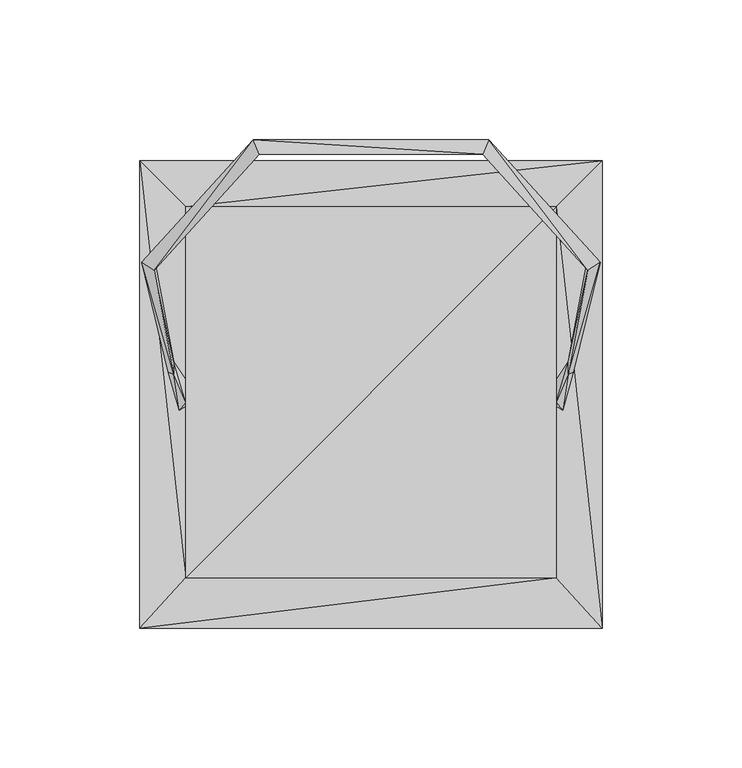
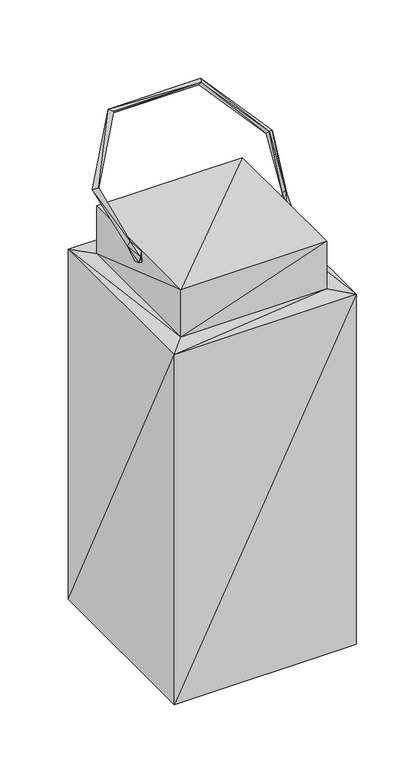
"""IFC4 building model written with IfcOpenShell, lengths in millimetres: geographic element geometry, Enscape AssetDefinition - Candle Lantern : Enscape AssetDefinition - Candle Lantern."""

from ifc_helpers import new_model, si_unit, origin, place, context, project, spatial, faceted_brep, source, transform, mapped, element, save


def geographic_element_3b733e86(model_context):
    return source(origin(), model_context, "Body", "Brep", [
        faceted_brep([(64.8216084, 3.8875914, 371.8030453), (68.9874664, 10.3752213, 380.9646666), (67.1490133, 1.1275142, 369.4619238), (68.9874664, 5.8764238, 386.2684965), (76.1088133, 43.0835895, 417.8260267), (76.1088133, 47.5823842, 412.5221968), (70.9497482, 6.6146962, 382.3350668), (64.8216084, -4.2213425, 381.3635707), (67.1490133, -5.6866277, 371.9019294), (64.8216084, -5.6866277, 371.9019294), (67.1490133, -6.9814194, 379.0232837), (80.4580301, 45.9104143, 415.6642854), (40.6379588, 89.7451416, 452.8425038), (38.3957997, 89.0929252, 447.7292895), (-43.6867513, 89.7451416, 452.8425038), (38.3957997, 84.5941231, 453.0330896), (-41.4437838, 89.0929252, 447.7292895), (-41.4437838, 84.5941231, 453.0330896), (-79.1576058, 43.0835895, 417.8260267), (-83.5068226, 45.9104143, 415.6642854), (-79.1576058, 47.5823842, 412.5221968), (-72.0362514, 5.8764238, 386.2684965), (-72.0362514, 10.3752213, 380.9646666), (-73.9985406, 6.6146962, 382.3350668), (-70.1978058, 1.1275142, 369.4619238), (-67.8704008, 3.8875914, 371.8030453), (-67.8704008, -4.2213425, 381.3635707), (-70.1978058, -6.9814194, 379.0232837), (-70.1978058, -5.6866277, 371.9019294), (-67.8704008, -5.6866277, 371.9019294)], [[[0, 1, 2]], [[3, 4, 1]], [[1, 5, 6]], [[3, 1, 7]], [[2, 1, 6]], [[1, 4, 5]], [[7, 1, 0]], [[6, 8, 2]], [[8, 0, 2]], [[9, 0, 8]], [[0, 9, 7]], [[7, 9, 10]], [[10, 3, 7]], [[10, 9, 8]], [[6, 10, 8]], [[6, 11, 3]], [[6, 3, 10]], [[6, 5, 11]], [[3, 11, 4]], [[11, 12, 4]], [[5, 13, 11]], [[11, 13, 12]], [[12, 14, 15]], [[4, 12, 15]], [[13, 14, 12]], [[13, 16, 14]], [[5, 15, 13]], [[15, 16, 13]], [[4, 15, 5]], [[15, 17, 16]], [[15, 14, 17]], [[17, 14, 18]], [[14, 16, 19]], [[18, 14, 19]], [[16, 17, 20]], [[19, 16, 20]], [[20, 17, 18]], [[18, 19, 21]], [[20, 18, 22]], [[22, 18, 21]], [[19, 20, 23]], [[21, 19, 23]], [[23, 20, 22]], [[24, 22, 25]], [[25, 22, 26]], [[23, 22, 24]], [[26, 22, 21]], [[26, 21, 27]], [[21, 23, 27]], [[28, 27, 23]], [[24, 28, 23]], [[24, 25, 28]], [[26, 29, 25]], [[28, 25, 29]], [[27, 29, 26]], [[28, 29, 27]]]),
        faceted_brep([(81.243746, -85.0316212, 0.0), (-84.2917413, -85.0316212, 0.0), (81.243746, 82.1742341, 0.0), (-84.2917413, -85.0316212, 336.7358744), (81.243746, -85.0316212, 336.7358744), (-84.2917413, 82.1742341, 0.0), (81.243746, 82.1742341, 336.7358744), (-84.2917413, 82.1742341, 336.7358744), (64.8240224, -66.9415295, 336.7358744), (64.8240224, 65.754503, 336.7358744), (-67.8720102, -66.9415295, 336.7358744), (-67.8720102, 65.754503, 336.7358744), (64.8240224, 65.754503, 382.702589), (-67.8720102, 65.754503, 382.702589), (64.8240224, -66.9415295, 382.702589), (-67.8720102, -66.9415295, 382.702589)], [[[0, 1, 2]], [[3, 1, 4]], [[2, 1, 5]], [[4, 1, 0]], [[3, 5, 1]], [[6, 2, 7]], [[6, 0, 2]], [[7, 2, 5]], [[4, 0, 6]], [[8, 4, 9]], [[8, 3, 4]], [[9, 4, 6]], [[7, 5, 3]], [[10, 3, 8]], [[10, 7, 3]], [[11, 7, 10]], [[11, 6, 7]], [[9, 6, 11]], [[12, 9, 13]], [[12, 8, 9]], [[13, 9, 11]], [[14, 8, 12]], [[14, 10, 8]], [[15, 10, 14]], [[15, 11, 10]], [[13, 11, 15]], [[13, 15, 12]], [[12, 15, 14]]]),
    ])


if __name__ == "__main__":
    model = new_model("IFC4")
    model_context = context("Model", 3, world=origin())
    ifc_project = project(units=[si_unit("LENGTHUNIT", "METRE", prefix="MILLI")], contexts=[model_context])
    site = spatial("IfcSite", under=ifc_project)
    building = spatial("IfcBuilding", under=site)
    placement = place(None, origin())
    geographic_element_shape = geographic_element_3b733e86(model_context)
    element("IfcGeographicElement", 1, ObjectType="Enscape AssetDefinition - Candle Lantern : Enscape AssetDefinition - Candle Lantern", at=placement, inside=building, context=model_context, shape_type="MappedRepresentation", body=[
        mapped(geographic_element_shape, transform((0.0, 0.0, 0.0), x_axis=(1.0, 0.0, 0.0), y_axis=(0.0, 1.0, 0.0), z_axis=(0.0, 0.0, 1.0))),
    ])
    save(model, "model.ifc")
